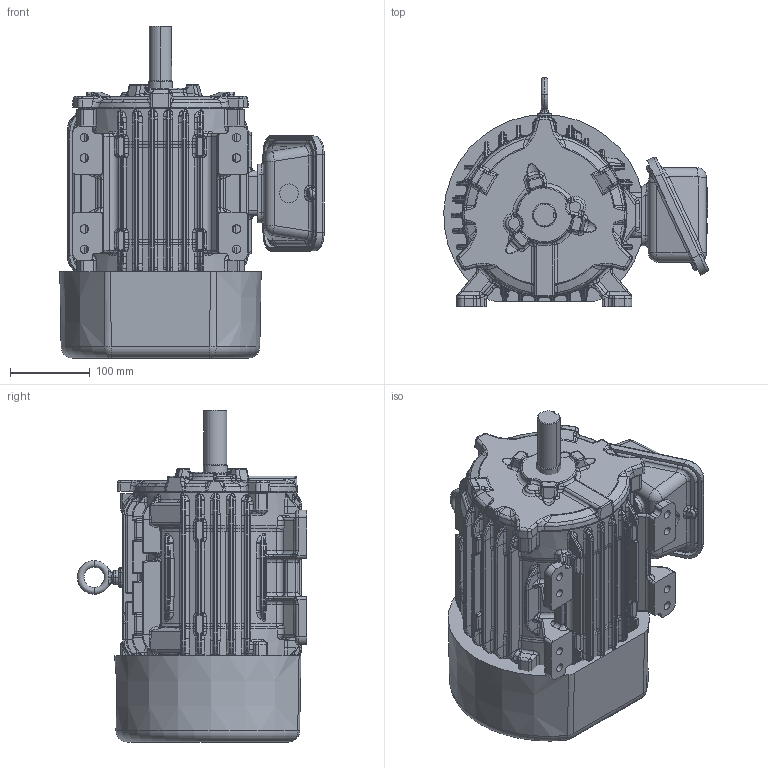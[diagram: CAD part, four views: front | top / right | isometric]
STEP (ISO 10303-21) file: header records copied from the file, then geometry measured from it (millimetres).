
FILE_DESCRIPTION((''),'2;1');
FILE_NAME('180_3D_ASM_ASM','2019-08-09T08:03:08',('EMD2341'),('Nidec Motor Corporation'),'CREO PARAMETRIC BY PTC INC, 2018300','CREO PARAMETRIC BY PTC INC, 2018300','');
FILE_SCHEMA(('CONFIG_CONTROL_DESIGN'));
Length unit declared in the file: inch
Products named in the file (10): 180_FOOTED_FRAME; 180_DE_BRKT; 180_NON_FLNG; 0133167; 180_CAST_GSK_OBB; 180_CAST_NEMA; 180_CAST_GSK_OBC; 180_CAST_OBC; 180_STL_FCVR; 180_3D_ASM_ASM
Assembly tree (9 placements, depth 2):
  180_3D_ASM_ASM
    180_FOOTED_FRAME
    180_DE_BRKT
    180_NON_FLNG
    0133167
    180_CAST_GSK_OBB
    180_CAST_NEMA
    180_CAST_GSK_OBC
    180_CAST_OBC
    180_STL_FCVR
Bounding box: 330.93 x 287.02 x 415.49 mm (x, y, z)
Volume: 14421829 mm3; surface area: 791557.3 mm2
Topology: 9 solids, 10 shells, 4294 faces, 9918 edges, 5706 vertices
Faces by surface type: bspline 1836, cylinder 1022, plane 798, extrusion 260, torus 228, sphere 106, cone 44
Entity records: 202522 total; most frequent: CARTESIAN_POINT 118215, ORIENTED_EDGE 19798, DIRECTION 13997, EDGE_CURVE 9901, VERTEX_POINT 5706, AXIS2_PLACEMENT_3D 5311, EDGE_LOOP 4399, FACE_OUTER_BOUND 4294
